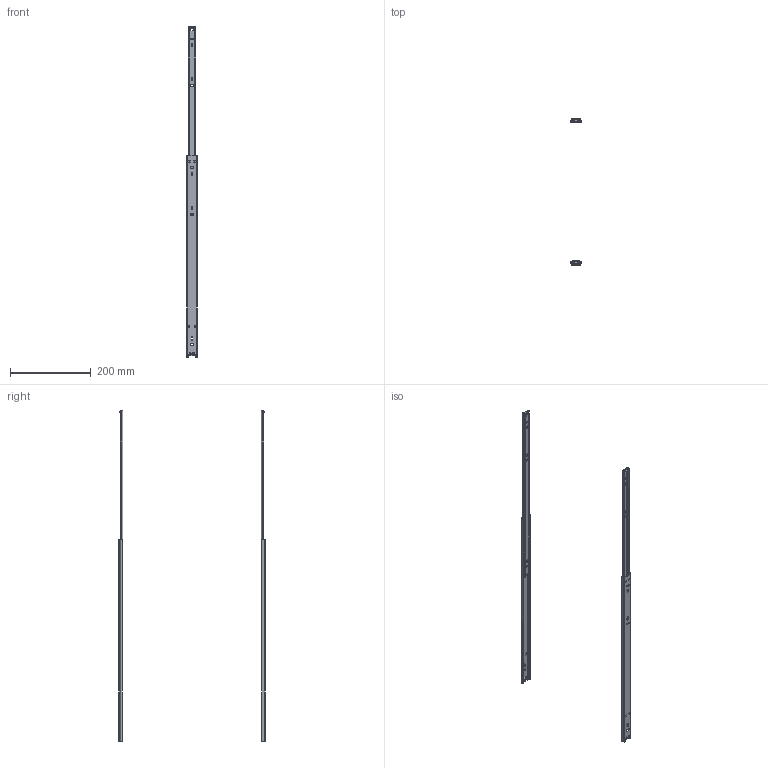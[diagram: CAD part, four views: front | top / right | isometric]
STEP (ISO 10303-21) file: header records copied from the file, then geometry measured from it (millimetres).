
FILE_DESCRIPTION(/* description */ (''),/* implementation_level */ '2;1');
FILE_NAME(/* name */ 'D:\$Workingspace\Designs\Katalog\Cadsoft\GTV Prowadnice\bry\X2\0142\X0\y\PK-0H27-5000_wysunieta.stp',/* time_stamp */ '2016-12-08T12:42:57+01:00',/* author */ ('tomaszw'),/* organization */ (''),/* preprocessor_version */ 'ST-DEVELOPER v16.1',/* originating_system */ 'Autodesk Inventor 2016',/* authorisation */ '');
FILE_SCHEMA (('AUTOMOTIVE_DESIGN { 1 0 10303 214 3 1 1 }'));
Length unit declared in the file: millimetre
Products named in the file (4): Blokada_1; PK-0H27_1-500; PK-0H27_2-500; PK-0H27
Assembly tree (6 placements, depth 2):
  PK-0H27
    Blokada_1  x2
    PK-0H27_1-500  x2
    PK-0H27_2-500  x2
Bounding box: 26.99 x 364 x 820 mm (x, y, z)
Volume: 65902.3 mm3; surface area: 135922.7 mm2
Topology: 6 solids, 6 shells, 318 faces, 912 edges, 604 vertices
Faces by surface type: plane 186, cylinder 132
Entity records: 5636 total; most frequent: CARTESIAN_POINT 1025, ORIENTED_EDGE 912, DIRECTION 912, EDGE_CURVE 456, LINE 318, VECTOR 318, VERTEX_POINT 302, AXIS2_PLACEMENT_3D 297
